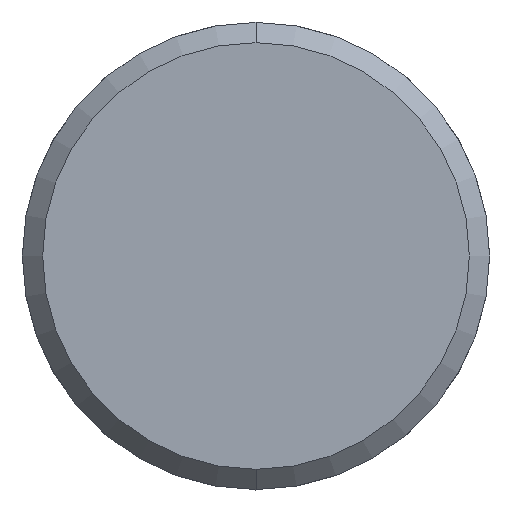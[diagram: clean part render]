
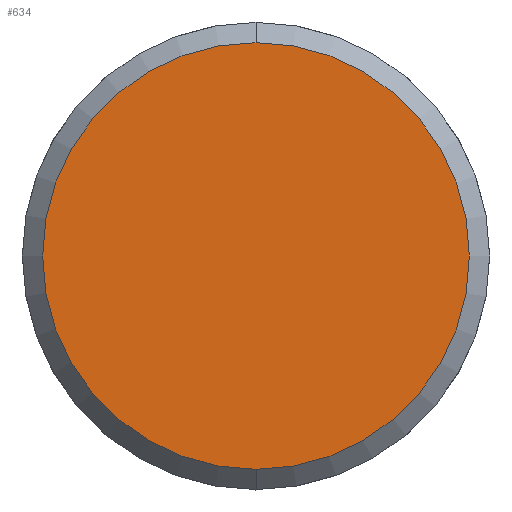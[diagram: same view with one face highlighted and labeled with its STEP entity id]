
A CAD part, front view. The second image highlights one B-rep face of the part: STEP entity #634.
In plain terms, the highlighted planar face has unit normal (0, -1, 0).
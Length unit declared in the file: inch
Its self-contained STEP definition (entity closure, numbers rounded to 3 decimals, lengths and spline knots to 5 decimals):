
#92 = CARTESIAN_POINT ( 'NONE',  ( -0.97432, 0.69117, 0.658 ) ) ;
#102 = CARTESIAN_POINT ( 'NONE',  ( -0.97432, 0.69117, -0.658 ) ) ;
#155 = VERTEX_POINT ( 'NONE', #102 ) ;
#200 = ORIENTED_EDGE ( 'NONE', *, *, #936, .F. ) ;
#209 = ORIENTED_EDGE ( 'NONE', *, *, #933, .F. ) ;
#401 = EDGE_LOOP ( 'NONE', ( #209, #200 ) ) ;
#415 = VERTEX_POINT ( 'NONE', #92 ) ;
#634 = ADVANCED_FACE ( 'NONE', ( #1622 ), #765, .T. ) ;
#750 = CARTESIAN_POINT ( 'NONE',  ( -0.44982, 0.69117, 0. ) ) ;
#765 = PLANE ( 'NONE',  #2109 ) ;
#933 = EDGE_CURVE ( 'NONE', #415, #155, #1733, .T. ) ;
#936 = EDGE_CURVE ( 'NONE', #155, #415, #1787, .T. ) ;
#1622 = FACE_OUTER_BOUND ( 'NONE', #401, .T. ) ;
#1668 = DIRECTION ( 'NONE',  ( 0., 0., 1. ) ) ;
#1669 = DIRECTION ( 'NONE',  ( 0., 1., 0. ) ) ;
#1670 = CARTESIAN_POINT ( 'NONE',  ( -0.97432, 0.69117, 0. ) ) ;
#1700 = DIRECTION ( 'NONE',  ( 0., 0., 1. ) ) ;
#1706 = DIRECTION ( 'NONE',  ( 0., 1., 0. ) ) ;
#1710 = CARTESIAN_POINT ( 'NONE',  ( -0.97432, 0.69117, 0. ) ) ;
#1733 = CIRCLE ( 'NONE', #2145, 0.658 ) ;
#1787 = CIRCLE ( 'NONE', #2146, 0.658 ) ;
#1814 = DIRECTION ( 'NONE',  ( 0., -1., 0. ) ) ;
#1815 = DIRECTION ( 'NONE',  ( 0., 0., -1. ) ) ;
#2109 = AXIS2_PLACEMENT_3D ( 'NONE', #750, #1814, #1815 ) ;
#2145 = AXIS2_PLACEMENT_3D ( 'NONE', #1710, #1706, #1700 ) ;
#2146 = AXIS2_PLACEMENT_3D ( 'NONE', #1670, #1669, #1668 ) ;
